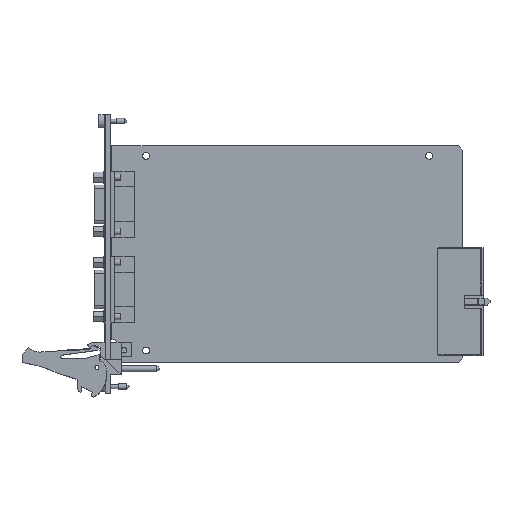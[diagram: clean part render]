
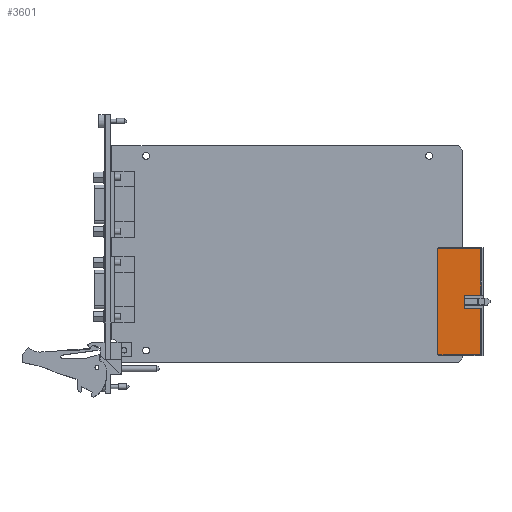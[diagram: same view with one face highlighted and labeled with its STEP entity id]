
A CAD part, top view. The second image highlights one B-rep face of the part: STEP entity #3601.
In plain terms, the highlighted planar face has unit normal (0, 0, 1).
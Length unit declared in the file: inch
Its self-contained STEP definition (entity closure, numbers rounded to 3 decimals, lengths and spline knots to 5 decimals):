
#1916=DIRECTION('',(1.,0.,0.));
#1917=VECTOR('',#1916,0.77756);
#1918=CARTESIAN_POINT('',(5.84533,-1.87055,
0.35728));
#1919=LINE('',#1918,#1917);
#1928=DIRECTION('',(-1.,0.,0.));
#1929=VECTOR('',#1928,0.30315);
#1930=CARTESIAN_POINT('',(6.62289,-2.71512,
0.35728));
#1931=LINE('',#1930,#1929);
#1932=DIRECTION('',(0.,-1.,0.));
#1933=VECTOR('',#1932,0.06);
#1934=CARTESIAN_POINT('',(6.31974,-2.71512,
0.35728));
#1935=LINE('',#1934,#1933);
#1936=DIRECTION('',(0.,-1.,0.));
#1937=VECTOR('',#1936,0.12);
#1938=CARTESIAN_POINT('',(6.31974,-2.77512,
0.35728));
#1939=LINE('',#1938,#1937);
#1940=DIRECTION('',(0.,-1.,0.));
#1941=VECTOR('',#1940,0.06);
#1942=CARTESIAN_POINT('',(6.31974,-2.89512,
0.35728));
#1943=LINE('',#1942,#1941);
#1944=DIRECTION('',(-1.,0.,0.));
#1945=VECTOR('',#1944,0.30315);
#1946=CARTESIAN_POINT('',(6.62289,-2.95512,
0.35728));
#1947=LINE('',#1946,#1945);
#1948=DIRECTION('',(0.,-1.,0.));
#1949=VECTOR('',#1948,0.84457);
#1950=CARTESIAN_POINT('',(6.62289,-2.95512,
0.35728));
#1951=LINE('',#1950,#1949);
#1952=DIRECTION('',(-1.,0.,0.));
#1953=VECTOR('',#1952,0.77756);
#1954=CARTESIAN_POINT('',(6.62289,-3.79969,
0.35728));
#1955=LINE('',#1954,#1953);
#1956=DIRECTION('',(0.,1.,0.));
#1957=VECTOR('',#1956,1.92913);
#1958=CARTESIAN_POINT('',(5.84533,-3.79969,
0.35728));
#1959=LINE('',#1958,#1957);
#1960=DIRECTION('',(0.,-1.,0.));
#1961=VECTOR('',#1960,0.84457);
#1962=CARTESIAN_POINT('',(6.62289,-1.87055,
0.35728));
#1963=LINE('',#1962,#1961);
#2300=CARTESIAN_POINT('',(5.84533,-3.79969,
0.35728));
#2302=VERTEX_POINT('',#2300);
#2303=CARTESIAN_POINT('',(6.62289,-3.79969,
0.35728));
#2304=VERTEX_POINT('',#2303);
#2306=CARTESIAN_POINT('',(5.84533,-1.87055,
0.35728));
#2308=VERTEX_POINT('',#2306);
#2309=CARTESIAN_POINT('',(6.62289,-1.87055,
0.35728));
#2310=VERTEX_POINT('',#2309);
#2323=CARTESIAN_POINT('',(6.62289,-2.71512,
0.35728));
#2324=CARTESIAN_POINT('',(6.31974,-2.71512,
0.35728));
#2325=VERTEX_POINT('',#2323);
#2326=VERTEX_POINT('',#2324);
#2327=CARTESIAN_POINT('',(6.31974,-2.77512,
0.35728));
#2328=VERTEX_POINT('',#2327);
#2329=CARTESIAN_POINT('',(6.62289,-2.95512,
0.35728));
#2330=CARTESIAN_POINT('',(6.31974,-2.95512,
0.35728));
#2331=VERTEX_POINT('',#2329);
#2332=VERTEX_POINT('',#2330);
#2333=CARTESIAN_POINT('',(6.31974,-2.89512,
0.35728));
#2334=VERTEX_POINT('',#2333);
#3577=CARTESIAN_POINT('',(5.84533,-3.79969,
0.35728));
#3578=DIRECTION('',(0.,0.,1.));
#3579=DIRECTION('',(1.,0.,0.));
#3580=AXIS2_PLACEMENT_3D('',#3577,#3578,#3579);
#3581=PLANE('',#3580);
#3583=ORIENTED_EDGE('',*,*,#3582,.T.);
#3585=ORIENTED_EDGE('',*,*,#3584,.T.);
#3587=ORIENTED_EDGE('',*,*,#3586,.T.);
#3589=ORIENTED_EDGE('',*,*,#3588,.T.);
#3590=ORIENTED_EDGE('',*,*,#2944,.F.);
#3592=ORIENTED_EDGE('',*,*,#3591,.T.);
#3594=ORIENTED_EDGE('',*,*,#3593,.T.);
#3595=ORIENTED_EDGE('',*,*,#3550,.T.);
#3596=ORIENTED_EDGE('',*,*,#3570,.T.);
#3598=ORIENTED_EDGE('',*,*,#3597,.T.);
#3599=EDGE_LOOP('',(#3583,#3585,#3587,#3589,#3590,#3592,#3594,#3595,#3596,
#3598));
#3600=FACE_OUTER_BOUND('',#3599,.F.);
#3601=ADVANCED_FACE('',(#3600),#3581,.T.);
#2944=EDGE_CURVE('',#2331,#2332,#1947,.T.);
#3550=EDGE_CURVE('',#2302,#2308,#1959,.T.);
#3570=EDGE_CURVE('',#2308,#2310,#1919,.T.);
#3582=EDGE_CURVE('',#2325,#2326,#1931,.T.);
#3584=EDGE_CURVE('',#2326,#2328,#1935,.T.);
#3586=EDGE_CURVE('',#2328,#2334,#1939,.T.);
#3588=EDGE_CURVE('',#2334,#2332,#1943,.T.);
#3591=EDGE_CURVE('',#2331,#2304,#1951,.T.);
#3593=EDGE_CURVE('',#2304,#2302,#1955,.T.);
#3597=EDGE_CURVE('',#2310,#2325,#1963,.T.);
